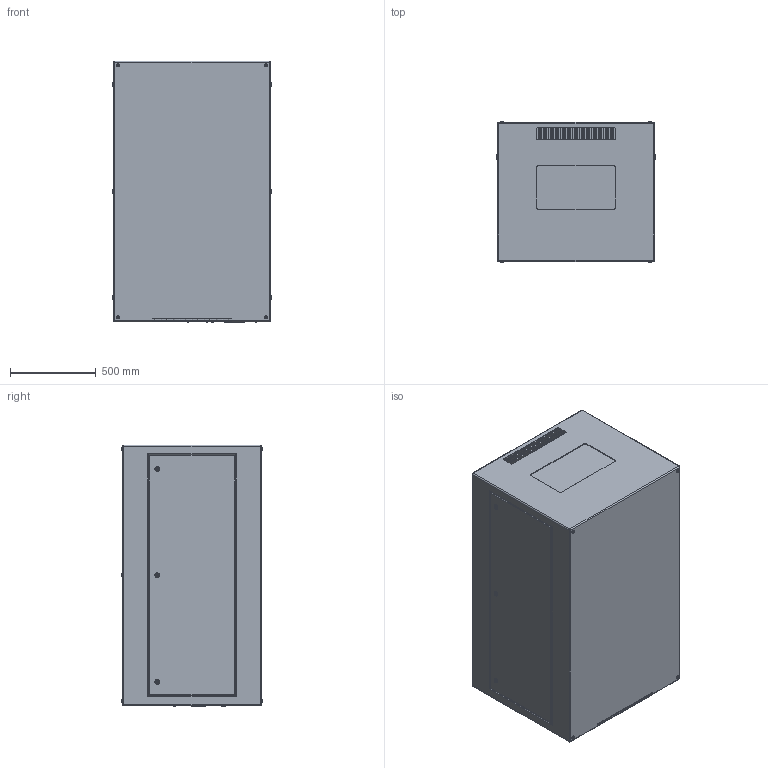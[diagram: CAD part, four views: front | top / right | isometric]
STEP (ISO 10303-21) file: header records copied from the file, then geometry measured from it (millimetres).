
FILE_DESCRIPTION (( 'STEP AP214' ), '1' );
FILE_NAME ('Zen 57.314.L R11.STEP', '2022-09-15T21:16:58', ( '' ), ( '' ), 'SwSTEP 2.0', 'SolidWorks 2020', '' );
FILE_SCHEMA (( 'AUTOMOTIVE_DESIGN' ));
Length unit declared in the file: inch
Products named in the file (1): Zen 57.314.L R11
Bounding box: 927.1 x 827.47 x 1531.62 mm (x, y, z)
Volume: 1131035805.2 mm3; surface area: 7150684.9 mm2
Topology: 1 solids, 7 shells, 1134 faces, 2856 edges, 1758 vertices
Faces by surface type: plane 518, cylinder 490, sphere 74, torus 52
Entity records: 37560 total; most frequent: CARTESIAN_POINT 6275, DIRECTION 5988, ORIENTED_EDGE 5564, EDGE_CURVE 2782, AXIS2_PLACEMENT_3D 2167, VERTEX_POINT 1758, LINE 1654, VECTOR 1654
